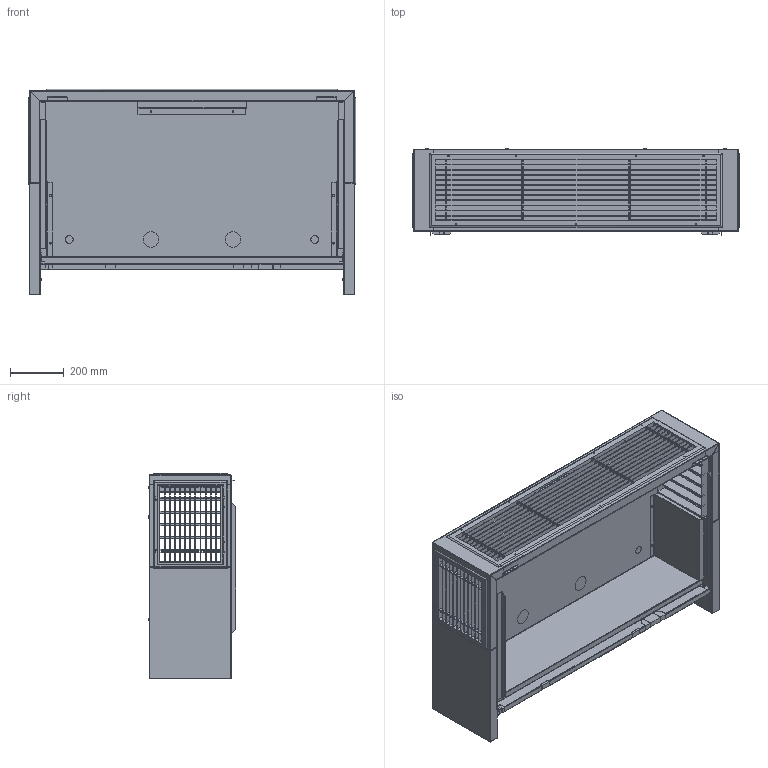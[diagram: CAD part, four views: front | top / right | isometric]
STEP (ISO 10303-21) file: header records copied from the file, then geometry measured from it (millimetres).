
FILE_DESCRIPTION (( 'STEP AP214' ), '1' );
FILE_NAME ('IPBDFH12 PLENUM BOX LINEAR SLOT.STEP', '2016-07-14T15:27:39', ( 'BMC' ), ( 'Bard Manufacturing Co., Inc.' ), 'SwSTEP 2.0', 'SolidWorks 2016', '' );
FILE_SCHEMA (( 'AUTOMOTIVE_DESIGN' ));
Length unit declared in the file: inch
Products named in the file (19): 106-314; IPBDFH12 PLENUM BOX LINEAR SLOT; 134-333; 134-332; 7051-085; 7051-083; 114-233; 100-718; 108-276; 5021-1719; 112-450; 102-496; 1012-086; 5021-1720; 5021-1843; 5021-1842; 5021-1841; 136-698; 134-330
Assembly tree (43 placements, depth 2):
  IPBDFH12 PLENUM BOX LINEAR SLOT
    106-314
    134-330
    136-698  x2
    5021-1841  x2
    5021-1842  x2
    5021-1843
    5021-1720
    1012-086  x18
    102-496  x2
    112-450  x2
    5021-1719
    108-276
    100-718  x2
    114-233
    7051-083
    7051-085  x2
    134-332  x2
    134-333
Bounding box: 1219.31 x 325.8 x 764.38 mm (x, y, z)
Surface area: 12508226.9 mm2 (no closed solid volume)
Topology: 0 solids, 44 shells, 2383 faces, 6876 edges, 4270 vertices
Faces by surface type: plane 1681, cylinder 618, bspline 48, cone 36
Entity records: 55093 total; most frequent: CARTESIAN_POINT 12187, ORIENTED_EDGE 9004, DIRECTION 8282, EDGE_CURVE 4502, VECTOR 3666, LINE 3666, VERTEX_POINT 2829, AXIS2_PLACEMENT_3D 2308
